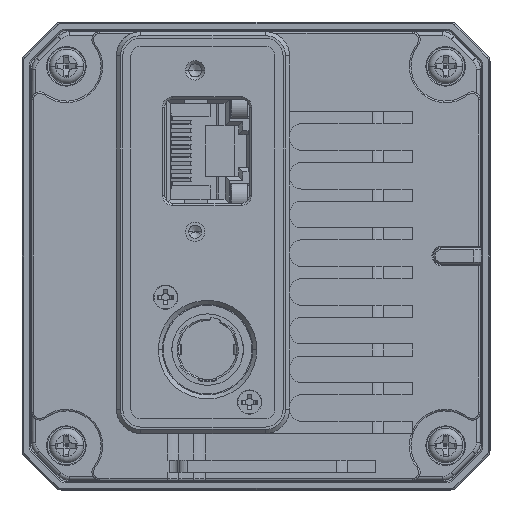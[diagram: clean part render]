
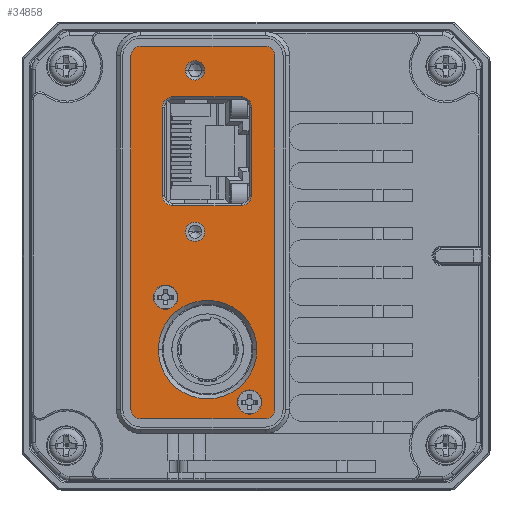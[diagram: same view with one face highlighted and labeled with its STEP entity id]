
A CAD part, front view. The second image highlights one B-rep face of the part: STEP entity #34858.
In plain terms, the highlighted planar face has unit normal (0, -1, 0).
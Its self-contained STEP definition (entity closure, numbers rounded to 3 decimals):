
#414=DIRECTION('',(0.,0.,1.));
#415=VECTOR('',#414,10.91);
#416=CARTESIAN_POINT('',(-11.6,-64.04,7.545));
#417=LINE('',#416,#415);
#435=DIRECTION('',(-1.,0.,0.));
#436=VECTOR('',#435,8.45);
#437=CARTESIAN_POINT('',(-1.85,-64.04,6.245));
#438=LINE('',#437,#436);
#472=DIRECTION('',(0.,0.,-1.));
#473=VECTOR('',#472,10.91);
#474=CARTESIAN_POINT('',(-0.55,-64.04,
18.455));
#475=LINE('',#474,#473);
#501=DIRECTION('',(1.,0.,0.));
#502=VECTOR('',#501,8.45);
#503=CARTESIAN_POINT('',(-10.3,-64.04,19.755));
#504=LINE('',#503,#502);
#518=CARTESIAN_POINT('',(-14.3,-64.04,-19.));
#519=DIRECTION('',(0.,1.,0.));
#520=DIRECTION('',(0.,0.,-1.));
#521=AXIS2_PLACEMENT_3D('',#518,#519,#520);
#523=CARTESIAN_POINT('',(-14.3,-64.04,24.8));
#524=DIRECTION('',(0.,1.,0.));
#525=DIRECTION('',(-1.,0.,0.));
#526=AXIS2_PLACEMENT_3D('',#523,#524,#525);
#528=CARTESIAN_POINT('',(1.15,-64.04,24.8));
#529=DIRECTION('',(0.,1.,0.));
#530=DIRECTION('',(0.,0.,1.));
#531=AXIS2_PLACEMENT_3D('',#528,#529,#530);
#533=CARTESIAN_POINT('',(1.15,-64.04,-19.));
#534=DIRECTION('',(0.,1.,0.));
#535=DIRECTION('',(1.,0.,0.));
#536=AXIS2_PLACEMENT_3D('',#533,#534,#535);
#538=CARTESIAN_POINT('',(-1.85,-64.04,7.545));
#539=DIRECTION('',(0.,-1.,0.));
#540=DIRECTION('',(0.,0.,-1.));
#541=AXIS2_PLACEMENT_3D('',#538,#539,#540);
#543=CARTESIAN_POINT('',(-1.85,-64.04,18.455));
#544=DIRECTION('',(0.,-1.,0.));
#545=DIRECTION('',(1.,0.,0.));
#546=AXIS2_PLACEMENT_3D('',#543,#544,#545);
#548=CARTESIAN_POINT('',(-10.3,-64.04,18.455));
#549=DIRECTION('',(0.,-1.,0.));
#550=DIRECTION('',(0.,0.,1.));
#551=AXIS2_PLACEMENT_3D('',#548,#549,#550);
#553=CARTESIAN_POINT('',(-10.3,-64.04,7.545));
#554=DIRECTION('',(0.,-1.,0.));
#555=DIRECTION('',(-1.,0.,0.));
#556=AXIS2_PLACEMENT_3D('',#553,#554,#555);
#558=CARTESIAN_POINT('',(-0.8,-64.04,-18.1));
#559=DIRECTION('',(0.,-1.,0.));
#560=DIRECTION('',(1.,0.,0.));
#561=AXIS2_PLACEMENT_3D('',#558,#559,#560);
#563=CARTESIAN_POINT('',(-0.8,-64.04,-18.1));
#564=DIRECTION('',(0.,-1.,0.));
#565=DIRECTION('',(-1.,0.,0.));
#566=AXIS2_PLACEMENT_3D('',#563,#564,#565);
#568=CARTESIAN_POINT('',(-11.2,-64.04,-5.1));
#569=DIRECTION('',(0.,-1.,0.));
#570=DIRECTION('',(1.,0.,0.));
#571=AXIS2_PLACEMENT_3D('',#568,#569,#570);
#573=CARTESIAN_POINT('',(-11.2,-64.04,-5.1));
#574=DIRECTION('',(0.,-1.,0.));
#575=DIRECTION('',(-1.,0.,0.));
#576=AXIS2_PLACEMENT_3D('',#573,#574,#575);
#578=CARTESIAN_POINT('',(-6.,-64.04,-11.6));
#579=DIRECTION('',(0.,-1.,0.));
#580=DIRECTION('',(1.,0.,0.));
#581=AXIS2_PLACEMENT_3D('',#578,#579,#580);
#583=CARTESIAN_POINT('',(-6.,-64.04,-11.6));
#584=DIRECTION('',(0.,-1.,0.));
#585=DIRECTION('',(0.,0.,1.));
#586=AXIS2_PLACEMENT_3D('',#583,#584,#585);
#588=CARTESIAN_POINT('',(-6.,-64.04,-11.6));
#589=DIRECTION('',(0.,-1.,0.));
#590=DIRECTION('',(-1.,0.,0.));
#591=AXIS2_PLACEMENT_3D('',#588,#589,#590);
#593=CARTESIAN_POINT('',(-6.,-64.04,-11.6));
#594=DIRECTION('',(0.,-1.,0.));
#595=DIRECTION('',(0.,0.,-1.));
#596=AXIS2_PLACEMENT_3D('',#593,#594,#595);
#598=CARTESIAN_POINT('',(-7.545,-64.04,3.));
#599=DIRECTION('',(0.,-1.,0.));
#600=DIRECTION('',(0.,0.,-1.));
#601=AXIS2_PLACEMENT_3D('',#598,#599,#600);
#603=CARTESIAN_POINT('',(-7.545,-64.04,3.));
#604=DIRECTION('',(0.,-1.,0.));
#605=DIRECTION('',(0.,0.,1.));
#606=AXIS2_PLACEMENT_3D('',#603,#604,#605);
#608=CARTESIAN_POINT('',(-7.545,-64.04,23.));
#609=DIRECTION('',(0.,-1.,0.));
#610=DIRECTION('',(0.,0.,-1.));
#611=AXIS2_PLACEMENT_3D('',#608,#609,#610);
#613=CARTESIAN_POINT('',(-7.545,-64.04,23.));
#614=DIRECTION('',(0.,-1.,0.));
#615=DIRECTION('',(0.,0.,1.));
#616=AXIS2_PLACEMENT_3D('',#613,#614,#615);
#618=DIRECTION('',(1.,0.,0.));
#619=VECTOR('',#618,15.45);
#620=CARTESIAN_POINT('',(-14.3,-64.04,-20.2));
#621=LINE('',#620,#619);
#626=DIRECTION('',(0.,0.,1.));
#627=VECTOR('',#626,43.8);
#628=CARTESIAN_POINT('',(2.35,-64.04,-19.));
#629=LINE('',#628,#627);
#638=DIRECTION('',(-1.,0.,0.));
#639=VECTOR('',#638,15.45);
#640=CARTESIAN_POINT('',(1.15,-64.04,26.));
#641=LINE('',#640,#639);
#650=DIRECTION('',(0.,0.,-1.));
#651=VECTOR('',#650,43.8);
#652=CARTESIAN_POINT('',(-15.5,-64.04,24.8));
#653=LINE('',#652,#651);
#26635=CARTESIAN_POINT('',(0.7,-64.04,-18.1));
#26636=VERTEX_POINT('',#26635);
#26637=CARTESIAN_POINT('',(-2.3,-64.04,-18.1));
#26638=VERTEX_POINT('',#26637);
#26639=CARTESIAN_POINT('',(-14.3,-64.04,-20.2));
#26640=CARTESIAN_POINT('',(-15.5,-64.04,-19.));
#26641=VERTEX_POINT('',#26639);
#26642=VERTEX_POINT('',#26640);
#26643=CARTESIAN_POINT('',(-15.5,-64.04,24.8));
#26644=CARTESIAN_POINT('',(-14.3,-64.04,26.));
#26645=VERTEX_POINT('',#26643);
#26646=VERTEX_POINT('',#26644);
#26647=CARTESIAN_POINT('',(1.15,-64.04,26.));
#26648=CARTESIAN_POINT('',(2.35,-64.04,24.8));
#26649=VERTEX_POINT('',#26647);
#26650=VERTEX_POINT('',#26648);
#26651=CARTESIAN_POINT('',(2.35,-64.04,-19.));
#26652=CARTESIAN_POINT('',(1.15,-64.04,-20.2));
#26653=VERTEX_POINT('',#26651);
#26654=VERTEX_POINT('',#26652);
#26655=CARTESIAN_POINT('',(-1.85,-64.04,
6.245));
#26656=CARTESIAN_POINT('',(-10.3,-64.04,
6.245));
#26657=VERTEX_POINT('',#26655);
#26658=VERTEX_POINT('',#26656);
#26659=CARTESIAN_POINT('',(-0.55,-64.04,7.545));
#26660=VERTEX_POINT('',#26659);
#26661=CARTESIAN_POINT('',(-0.55,-64.04,
18.455));
#26662=VERTEX_POINT('',#26661);
#26663=CARTESIAN_POINT('',(-1.85,-64.04,19.755));
#26664=VERTEX_POINT('',#26663);
#26665=CARTESIAN_POINT('',(-10.3,-64.04,
19.755));
#26666=VERTEX_POINT('',#26665);
#26667=CARTESIAN_POINT('',(-11.6,-64.04,18.455));
#26668=VERTEX_POINT('',#26667);
#26669=CARTESIAN_POINT('',(-11.6,-64.04,
7.545));
#26670=VERTEX_POINT('',#26669);
#26671=CARTESIAN_POINT('',(-9.7,-64.04,-5.1));
#26672=CARTESIAN_POINT('',(-12.7,-64.04,-5.1));
#26673=VERTEX_POINT('',#26671);
#26674=VERTEX_POINT('',#26672);
#26675=CARTESIAN_POINT('',(0.1,-64.04,-11.6));
#26676=CARTESIAN_POINT('',(-6.,-64.04,-5.5));
#26677=VERTEX_POINT('',#26675);
#26678=VERTEX_POINT('',#26676);
#26679=CARTESIAN_POINT('',(-12.1,-64.04,-11.6));
#26680=VERTEX_POINT('',#26679);
#26681=CARTESIAN_POINT('',(-6.,-64.04,-17.7));
#26682=VERTEX_POINT('',#26681);
#26683=CARTESIAN_POINT('',(-7.545,-64.04,1.8));
#26684=CARTESIAN_POINT('',(-7.545,-64.04,4.2));
#26685=VERTEX_POINT('',#26683);
#26686=VERTEX_POINT('',#26684);
#26687=CARTESIAN_POINT('',(-7.545,-64.04,21.8));
#26688=CARTESIAN_POINT('',(-7.545,-64.04,24.2));
#26689=VERTEX_POINT('',#26687);
#26690=VERTEX_POINT('',#26688);
#34791=CARTESIAN_POINT('',(-6.575,-64.04,2.9));
#34792=DIRECTION('',(0.,1.,0.));
#34793=DIRECTION('',(-1.,0.,0.));
#34794=AXIS2_PLACEMENT_3D('',#34791,#34792,#34793);
#34795=PLANE('',#34794);
#34797=ORIENTED_EDGE('',*,*,#34796,.F.);
#34799=ORIENTED_EDGE('',*,*,#34798,.T.);
#34801=ORIENTED_EDGE('',*,*,#34800,.F.);
#34803=ORIENTED_EDGE('',*,*,#34802,.T.);
#34805=ORIENTED_EDGE('',*,*,#34804,.F.);
#34807=ORIENTED_EDGE('',*,*,#34806,.T.);
#34809=ORIENTED_EDGE('',*,*,#34808,.F.);
#34811=ORIENTED_EDGE('',*,*,#34810,.T.);
#34812=EDGE_LOOP('',(#34797,#34799,#34801,#34803,#34805,#34807,#34809,#34811));
#34813=FACE_OUTER_BOUND('',#34812,.F.);
#34814=ORIENTED_EDGE('',*,*,#34647,.F.);
#34815=ORIENTED_EDGE('',*,*,#34662,.T.);
#34816=ORIENTED_EDGE('',*,*,#34703,.F.);
#34817=ORIENTED_EDGE('',*,*,#34718,.T.);
#34818=ORIENTED_EDGE('',*,*,#34759,.F.);
#34819=ORIENTED_EDGE('',*,*,#34773,.T.);
#34820=ORIENTED_EDGE('',*,*,#34590,.F.);
#34821=ORIENTED_EDGE('',*,*,#34606,.T.);
#34822=EDGE_LOOP('',(#34814,#34815,#34816,#34817,#34818,#34819,#34820,#34821));
#34823=FACE_BOUND('',#34822,.F.);
#34825=ORIENTED_EDGE('',*,*,#34824,.T.);
#34827=ORIENTED_EDGE('',*,*,#34826,.T.);
#34828=EDGE_LOOP('',(#34825,#34827));
#34829=FACE_BOUND('',#34828,.F.);
#34831=ORIENTED_EDGE('',*,*,#34830,.T.);
#34833=ORIENTED_EDGE('',*,*,#34832,.T.);
#34834=EDGE_LOOP('',(#34831,#34833));
#34835=FACE_BOUND('',#34834,.F.);
#34837=ORIENTED_EDGE('',*,*,#34836,.T.);
#34839=ORIENTED_EDGE('',*,*,#34838,.T.);
#34841=ORIENTED_EDGE('',*,*,#34840,.T.);
#34843=ORIENTED_EDGE('',*,*,#34842,.T.);
#34844=EDGE_LOOP('',(#34837,#34839,#34841,#34843));
#34845=FACE_BOUND('',#34844,.F.);
#34847=ORIENTED_EDGE('',*,*,#34846,.T.);
#34849=ORIENTED_EDGE('',*,*,#34848,.T.);
#34850=EDGE_LOOP('',(#34847,#34849));
#34851=FACE_BOUND('',#34850,.F.);
#34853=ORIENTED_EDGE('',*,*,#34852,.T.);
#34855=ORIENTED_EDGE('',*,*,#34854,.T.);
#34856=EDGE_LOOP('',(#34853,#34855));
#34857=FACE_BOUND('',#34856,.F.);
#34858=ADVANCED_FACE('',(#34813,#34823,#34829,#34835,#34845,#34851,#34857),
#34795,.F.);
#522=CIRCLE('',#521,1.2);
#527=CIRCLE('',#526,1.2);
#532=CIRCLE('',#531,1.2);
#537=CIRCLE('',#536,1.2);
#542=CIRCLE('',#541,1.3);
#547=CIRCLE('',#546,1.3);
#552=CIRCLE('',#551,1.3);
#557=CIRCLE('',#556,1.3);
#562=CIRCLE('',#561,1.5);
#567=CIRCLE('',#566,1.5);
#572=CIRCLE('',#571,1.5);
#577=CIRCLE('',#576,1.5);
#582=CIRCLE('',#581,6.1);
#587=CIRCLE('',#586,6.1);
#592=CIRCLE('',#591,6.1);
#597=CIRCLE('',#596,6.1);
#602=CIRCLE('',#601,1.2);
#607=CIRCLE('',#606,1.2);
#612=CIRCLE('',#611,1.2);
#617=CIRCLE('',#616,1.2);
#34590=EDGE_CURVE('',#26670,#26668,#417,.T.);
#34606=EDGE_CURVE('',#26670,#26658,#557,.T.);
#34647=EDGE_CURVE('',#26657,#26658,#438,.T.);
#34662=EDGE_CURVE('',#26657,#26660,#542,.T.);
#34703=EDGE_CURVE('',#26662,#26660,#475,.T.);
#34718=EDGE_CURVE('',#26662,#26664,#547,.T.);
#34759=EDGE_CURVE('',#26666,#26664,#504,.T.);
#34773=EDGE_CURVE('',#26666,#26668,#552,.T.);
#34796=EDGE_CURVE('',#26641,#26654,#621,.T.);
#34798=EDGE_CURVE('',#26641,#26642,#522,.T.);
#34800=EDGE_CURVE('',#26645,#26642,#653,.T.);
#34802=EDGE_CURVE('',#26645,#26646,#527,.T.);
#34804=EDGE_CURVE('',#26649,#26646,#641,.T.);
#34806=EDGE_CURVE('',#26649,#26650,#532,.T.);
#34808=EDGE_CURVE('',#26653,#26650,#629,.T.);
#34810=EDGE_CURVE('',#26653,#26654,#537,.T.);
#34824=EDGE_CURVE('',#26636,#26638,#562,.T.);
#34826=EDGE_CURVE('',#26638,#26636,#567,.T.);
#34830=EDGE_CURVE('',#26673,#26674,#572,.T.);
#34832=EDGE_CURVE('',#26674,#26673,#577,.T.);
#34836=EDGE_CURVE('',#26677,#26678,#582,.T.);
#34838=EDGE_CURVE('',#26678,#26680,#587,.T.);
#34840=EDGE_CURVE('',#26680,#26682,#592,.T.);
#34842=EDGE_CURVE('',#26682,#26677,#597,.T.);
#34846=EDGE_CURVE('',#26685,#26686,#602,.T.);
#34848=EDGE_CURVE('',#26686,#26685,#607,.T.);
#34852=EDGE_CURVE('',#26689,#26690,#612,.T.);
#34854=EDGE_CURVE('',#26690,#26689,#617,.T.);
